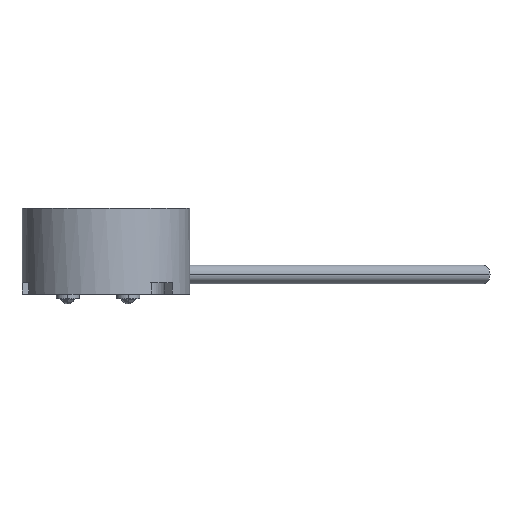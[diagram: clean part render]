
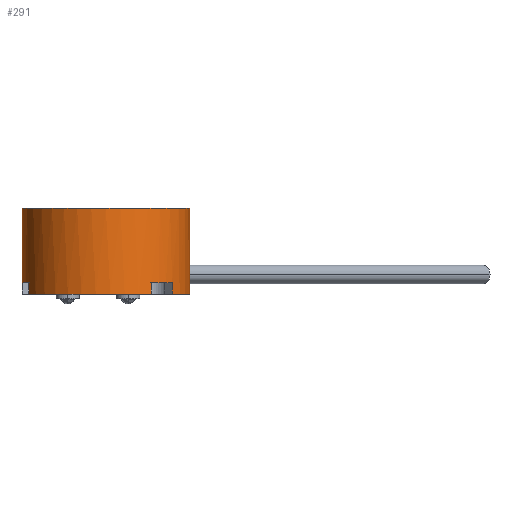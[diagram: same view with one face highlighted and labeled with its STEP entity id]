
A CAD part, left-side view. The second image highlights one B-rep face of the part: STEP entity #291.
In plain terms, the highlighted cylindrical face has radius 18 mm (diameter 36 mm), a partial arc.
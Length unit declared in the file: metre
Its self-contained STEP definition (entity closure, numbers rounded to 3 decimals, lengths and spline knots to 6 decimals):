
#45 = AXIS2_PLACEMENT_3D ( 'NONE', #1862, #1134, #845 ) ;
#53 = ORIENTED_EDGE ( 'NONE', *, *, #1292, .T. ) ;
#91 = DIRECTION ( 'NONE',  ( 0., 0., -1. ) ) ;
#148 = CIRCLE ( 'NONE', #1807, 0.018 ) ;
#152 = AXIS2_PLACEMENT_3D ( 'NONE', #707, #691, #1712 ) ;
#163 = LINE ( 'NONE', #1427, #452 ) ;
#211 = DIRECTION ( 'NONE',  ( 0., 0., 1. ) ) ;
#212 = VERTEX_POINT ( 'NONE', #972 ) ;
#225 = FACE_OUTER_BOUND ( 'NONE', #336, .T. ) ;
#264 = EDGE_CURVE ( 'NONE', #1682, #355, #1874, .T. ) ;
#291 = ADVANCED_FACE ( 'NONE', ( #225 ), #871, .T. ) ;
#307 = DIRECTION ( 'NONE',  ( 0., 0., 1. ) ) ;
#335 = AXIS2_PLACEMENT_3D ( 'NONE', #586, #307, #577 ) ;
#336 = EDGE_LOOP ( 'NONE', ( #1719, #53, #814, #1329, #598, #1359, #432, #1071, #1493, #565, #1464, #1226 ) ) ;
#351 = AXIS2_PLACEMENT_3D ( 'NONE', #1676, #1555, #1667 ) ;
#355 = VERTEX_POINT ( 'NONE', #703 ) ;
#356 = DIRECTION ( 'NONE',  ( 0., 0., 1. ) ) ;
#412 = AXIS2_PLACEMENT_3D ( 'NONE', #1669, #1390, #1533 ) ;
#432 = ORIENTED_EDGE ( 'NONE', *, *, #1118, .F. ) ;
#452 = VECTOR ( 'NONE', #1731, 1. ) ;
#453 = EDGE_CURVE ( 'NONE', #1682, #1041, #1220, .T. ) ;
#463 = VERTEX_POINT ( 'NONE', #1839 ) ;
#531 = CARTESIAN_POINT ( 'NONE',  ( 0., 0., -0.016 ) ) ;
#534 = EDGE_CURVE ( 'NONE', #1407, #212, #1187, .T. ) ;
#565 = ORIENTED_EDGE ( 'NONE', *, *, #264, .T. ) ;
#577 = DIRECTION ( 'NONE',  ( 0., -1., 0. ) ) ;
#586 = CARTESIAN_POINT ( 'NONE',  ( 0., 0., -0.0185 ) ) ;
#598 = ORIENTED_EDGE ( 'NONE', *, *, #1437, .F. ) ;
#638 = VERTEX_POINT ( 'NONE', #1424 ) ;
#643 = VECTOR ( 'NONE', #211, 1. ) ;
#666 = CARTESIAN_POINT ( 'NONE',  ( -0.011038, -0.014218, -0.00925 ) ) ;
#691 = DIRECTION ( 'NONE',  ( 0., 0., 1. ) ) ;
#703 = CARTESIAN_POINT ( 'NONE',  ( 0., -0.018, -0.0185 ) ) ;
#707 = CARTESIAN_POINT ( 'NONE',  ( 0., 0., -0.0185 ) ) ;
#757 = CARTESIAN_POINT ( 'NONE',  ( -0.007055, 0.01656, -0.00925 ) ) ;
#777 = EDGE_CURVE ( 'NONE', #355, #212, #1746, .T. ) ;
#814 = ORIENTED_EDGE ( 'NONE', *, *, #1032, .F. ) ;
#845 = DIRECTION ( 'NONE',  ( 0., -1., 0. ) ) ;
#849 = DIRECTION ( 'NONE',  ( 0., -1., 0. ) ) ;
#871 = CYLINDRICAL_SURFACE ( 'NONE', #152, 0.018 ) ;
#874 = LINE ( 'NONE', #757, #1514 ) ;
#897 = VECTOR ( 'NONE', #1306, 1. ) ;
#926 = VECTOR ( 'NONE', #356, 1. ) ;
#935 = CARTESIAN_POINT ( 'NONE',  ( 0., 0.018, 0. ) ) ;
#945 = EDGE_CURVE ( 'NONE', #1041, #1007, #148, .T. ) ;
#972 = CARTESIAN_POINT ( 'NONE',  ( 0., -0.018, 0. ) ) ;
#983 = EDGE_CURVE ( 'NONE', #1082, #1308, #1594, .T. ) ;
#999 = CARTESIAN_POINT ( 'NONE',  ( -0.015102, -0.009795, -0.016 ) ) ;
#1007 = VERTEX_POINT ( 'NONE', #999 ) ;
#1018 = EDGE_CURVE ( 'NONE', #463, #1407, #163, .T. ) ;
#1032 = EDGE_CURVE ( 'NONE', #1617, #638, #1104, .T. ) ;
#1041 = VERTEX_POINT ( 'NONE', #1737 ) ;
#1071 = ORIENTED_EDGE ( 'NONE', *, *, #945, .F. ) ;
#1082 = VERTEX_POINT ( 'NONE', #1435 ) ;
#1093 = AXIS2_PLACEMENT_3D ( 'NONE', #531, #91, #1706 ) ;
#1104 = LINE ( 'NONE', #1324, #1571 ) ;
#1118 = EDGE_CURVE ( 'NONE', #1007, #1308, #1767, .T. ) ;
#1134 = DIRECTION ( 'NONE',  ( 0., 0., 1. ) ) ;
#1143 = CARTESIAN_POINT ( 'NONE',  ( 0., 0., -0.016 ) ) ;
#1168 = CARTESIAN_POINT ( 'NONE',  ( -0.015102, -0.009795, -0.00925 ) ) ;
#1187 = CIRCLE ( 'NONE', #412, 0.018 ) ;
#1220 = LINE ( 'NONE', #666, #926 ) ;
#1226 = ORIENTED_EDGE ( 'NONE', *, *, #534, .F. ) ;
#1292 = EDGE_CURVE ( 'NONE', #463, #638, #1333, .T. ) ;
#1306 = DIRECTION ( 'NONE',  ( 0., 0., -1. ) ) ;
#1308 = VERTEX_POINT ( 'NONE', #1607 ) ;
#1324 = CARTESIAN_POINT ( 'NONE',  ( -0.001216, 0.017959, -0.00925 ) ) ;
#1329 = ORIENTED_EDGE ( 'NONE', *, *, #1644, .F. ) ;
#1333 = CIRCLE ( 'NONE', #335, 0.018 ) ;
#1359 = ORIENTED_EDGE ( 'NONE', *, *, #983, .T. ) ;
#1383 = CARTESIAN_POINT ( 'NONE',  ( -0.007055, 0.01656, -0.016 ) ) ;
#1385 = CARTESIAN_POINT ( 'NONE',  ( 0., -0.018, -0.0185 ) ) ;
#1390 = DIRECTION ( 'NONE',  ( 0., 0., 1. ) ) ;
#1407 = VERTEX_POINT ( 'NONE', #935 ) ;
#1416 = CARTESIAN_POINT ( 'NONE',  ( -0.011038, -0.014218, -0.0185 ) ) ;
#1424 = CARTESIAN_POINT ( 'NONE',  ( -0.001216, 0.017959, -0.0185 ) ) ;
#1427 = CARTESIAN_POINT ( 'NONE',  ( 0., 0.018, -0.0185 ) ) ;
#1435 = CARTESIAN_POINT ( 'NONE',  ( -0.007055, 0.01656, -0.0185 ) ) ;
#1437 = EDGE_CURVE ( 'NONE', #1082, #1529, #874, .T. ) ;
#1464 = ORIENTED_EDGE ( 'NONE', *, *, #777, .T. ) ;
#1493 = ORIENTED_EDGE ( 'NONE', *, *, #453, .F. ) ;
#1514 = VECTOR ( 'NONE', #1778, 1. ) ;
#1529 = VERTEX_POINT ( 'NONE', #1383 ) ;
#1533 = DIRECTION ( 'NONE',  ( 0., -1., 0. ) ) ;
#1555 = DIRECTION ( 'NONE',  ( 0., 0., 1. ) ) ;
#1571 = VECTOR ( 'NONE', #1756, 1. ) ;
#1594 = CIRCLE ( 'NONE', #45, 0.018 ) ;
#1607 = CARTESIAN_POINT ( 'NONE',  ( -0.015102, -0.009795, -0.0185 ) ) ;
#1617 = VERTEX_POINT ( 'NONE', #1688 ) ;
#1644 = EDGE_CURVE ( 'NONE', #1529, #1617, #1697, .T. ) ;
#1667 = DIRECTION ( 'NONE',  ( 0., -1., 0. ) ) ;
#1669 = CARTESIAN_POINT ( 'NONE',  ( 0., 0., 0. ) ) ;
#1676 = CARTESIAN_POINT ( 'NONE',  ( 0., 0., -0.0185 ) ) ;
#1682 = VERTEX_POINT ( 'NONE', #1416 ) ;
#1688 = CARTESIAN_POINT ( 'NONE',  ( -0.001216, 0.017959, -0.016 ) ) ;
#1697 = CIRCLE ( 'NONE', #1093, 0.018 ) ;
#1706 = DIRECTION ( 'NONE',  ( 0., -1., 0. ) ) ;
#1710 = DIRECTION ( 'NONE',  ( 0., 0., -1. ) ) ;
#1712 = DIRECTION ( 'NONE',  ( 0., -1., 0. ) ) ;
#1719 = ORIENTED_EDGE ( 'NONE', *, *, #1018, .F. ) ;
#1731 = DIRECTION ( 'NONE',  ( 0., 0., 1. ) ) ;
#1737 = CARTESIAN_POINT ( 'NONE',  ( -0.011038, -0.014218, -0.016 ) ) ;
#1746 = LINE ( 'NONE', #1385, #643 ) ;
#1756 = DIRECTION ( 'NONE',  ( 0., 0., -1. ) ) ;
#1767 = LINE ( 'NONE', #1168, #897 ) ;
#1778 = DIRECTION ( 'NONE',  ( 0., 0., 1. ) ) ;
#1807 = AXIS2_PLACEMENT_3D ( 'NONE', #1143, #1710, #849 ) ;
#1839 = CARTESIAN_POINT ( 'NONE',  ( 0., 0.018, -0.0185 ) ) ;
#1862 = CARTESIAN_POINT ( 'NONE',  ( 0., 0., -0.0185 ) ) ;
#1874 = CIRCLE ( 'NONE', #351, 0.018 ) ;
